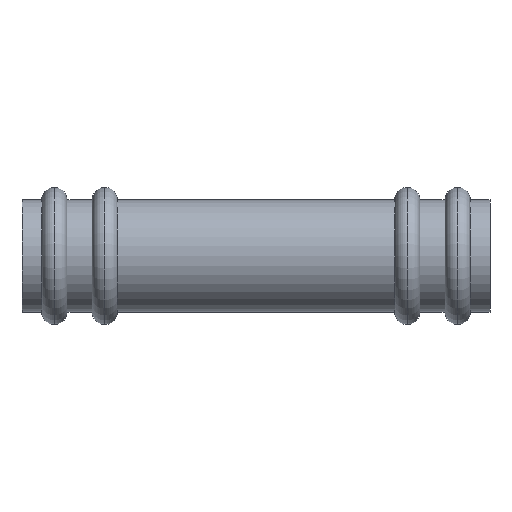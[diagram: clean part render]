
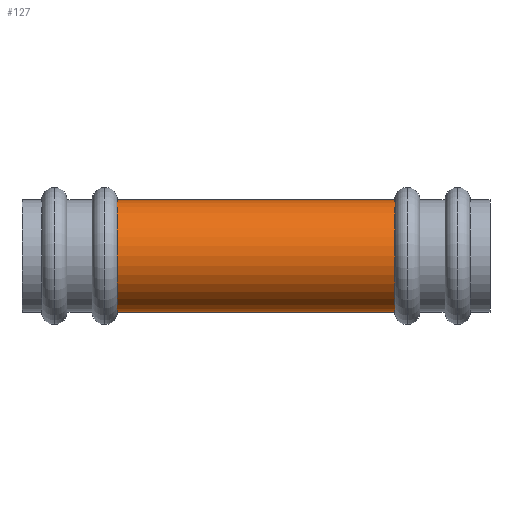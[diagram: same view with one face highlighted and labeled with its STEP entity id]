
A CAD part, front view. The second image highlights one B-rep face of the part: STEP entity #127.
In plain terms, the highlighted cylindrical face has radius 15.65 mm (diameter 31.3 mm), a partial arc.
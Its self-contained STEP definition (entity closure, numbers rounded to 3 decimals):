
#127=ADVANCED_FACE('',(#301),#302,.T.);
#301=FACE_OUTER_BOUND('',#537,.T.);
#302=CYLINDRICAL_SURFACE('',#538,15.65);
#537=EDGE_LOOP('',(#847,#848,#849,#850));
#538=AXIS2_PLACEMENT_3D('',#851,#852,#853);
#847=ORIENTED_EDGE('',*,*,#1344,.F.);
#848=ORIENTED_EDGE('',*,*,#1345,.F.);
#849=ORIENTED_EDGE('',*,*,#1346,.F.);
#850=ORIENTED_EDGE('',*,*,#1347,.F.);
#851=CARTESIAN_POINT('',(65.024,0.0,0.0));
#852=DIRECTION('',(-1.0,0.0,0.0));
#853=DIRECTION('',(0.0,0.0,-1.0));
#1344=EDGE_CURVE('',#1587,#1588,#1589,.T.);
#1345=EDGE_CURVE('',#1590,#1587,#1591,.T.);
#1346=EDGE_CURVE('',#1592,#1590,#1593,.T.);
#1347=EDGE_CURVE('',#1588,#1592,#1594,.T.);
#1587=VERTEX_POINT('',#1886);
#1588=VERTEX_POINT('',#1887);
#1589=LINE('',#1888,#1889);
#1590=VERTEX_POINT('',#1890);
#1591=CIRCLE('',#1891,15.65);
#1592=VERTEX_POINT('',#1892);
#1593=LINE('',#1893,#1894);
#1594=CIRCLE('',#1895,15.65);
#1886=CARTESIAN_POINT('',(103.548,0.,-15.65));
#1887=CARTESIAN_POINT('',(26.5,0.,-15.65));
#1888=CARTESIAN_POINT('',(65.024,0.,-15.65));
#1889=VECTOR('',#2252,1.0);
#1890=CARTESIAN_POINT('',(103.548,0.,15.65));
#1891=AXIS2_PLACEMENT_3D('',#2253,#2254,#2255);
#1892=CARTESIAN_POINT('',(26.5,0.,15.65));
#1893=CARTESIAN_POINT('',(65.024,0.,15.65));
#1894=VECTOR('',#2256,1.0);
#1895=AXIS2_PLACEMENT_3D('',#2257,#2258,#2259);
#2252=DIRECTION('',(-1.0,0.0,0.0));
#2253=CARTESIAN_POINT('',(103.548,0.0,0.));
#2254=DIRECTION('',(1.0,0.0,-0.0));
#2255=DIRECTION('',(0.0,0.0,1.0));
#2256=DIRECTION('',(1.0,-0.0,-0.0));
#2257=CARTESIAN_POINT('',(26.5,0.0,0.));
#2258=DIRECTION('',(-1.0,0.0,0.));
#2259=DIRECTION('',(0.,0.0,-1.0));
